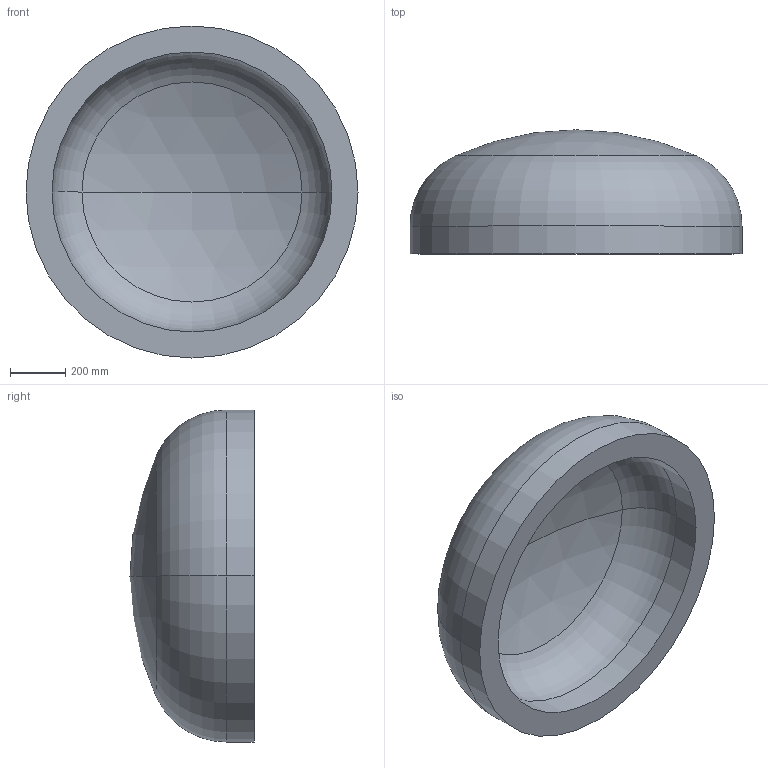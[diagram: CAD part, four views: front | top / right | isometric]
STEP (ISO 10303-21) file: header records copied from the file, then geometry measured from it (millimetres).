
FILE_DESCRIPTION (( 'STEP AP203' ), '1' );
FILE_NAME ('DIN 28013 Korbbogenform_-_Boden DIN 28013 - 1200 x 100 - I - s=94.step', '2016-07-01T09:36:57', ( '' ), ( '' ), 'SwSTEP 2.0', 'SolidWorks 2013', '' );
FILE_SCHEMA (( 'CONFIG_CONTROL_DESIGN' ));
Length unit declared in the file: millimetre
Products named in the file (1): DIN 28013 Korbbogenform_-_Boden DIN 28013 - 1200 x 100 - I - s=94
Bounding box: 1200 x 448.6 x 1200 mm (x, y, z)
Volume: 166126943.1 mm3; surface area: 3879733.7 mm2
Topology: 1 solids, 1 shells, 13 faces, 24 edges, 14 vertices
Faces by surface type: torus 4, cylinder 4, sphere 4, plane 1
Entity records: 407 total; most frequent: DIRECTION 72, CARTESIAN_POINT 52, ORIENTED_EDGE 48, AXIS2_PLACEMENT_3D 34, EDGE_CURVE 24, CIRCLE 20, VERTEX_POINT 14, EDGE_LOOP 14
